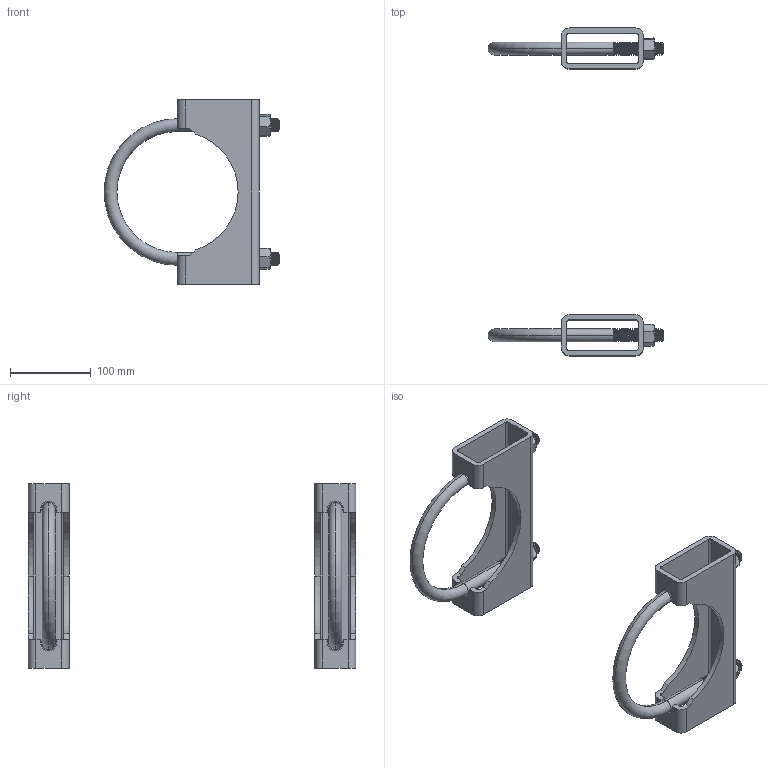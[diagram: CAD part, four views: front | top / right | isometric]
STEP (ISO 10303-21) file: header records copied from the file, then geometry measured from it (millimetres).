
FILE_DESCRIPTION (( 'STEP AP203' ), '1' );
FILE_NAME ('XGB-53.step', '2014-05-13T19:56:49', ( 'user' ), ( '' ), 'SwSTEP 2.0', 'SolidWorks 2012', '' );
FILE_SCHEMA (( 'CONFIG_CONTROL_DESIGN' ));
Length unit declared in the file: inch
Products named in the file (1): XGB-53
Bounding box: 217.93 x 406.4 x 228.6 mm (x, y, z)
Surface area: 226095.7 mm2 (no closed solid volume)
Topology: 0 solids, 8 shells, 209 faces, 628 edges, 415 vertices
Faces by surface type: cylinder 80, plane 77, cone 40, bspline 8, torus 4
Entity records: 22509 total; most frequent: CARTESIAN_POINT 17145, ORIENTED_EDGE 1161, DIRECTION 1020, EDGE_CURVE 628, VERTEX_POINT 415, AXIS2_PLACEMENT_3D 358, LINE 304, VECTOR 304
